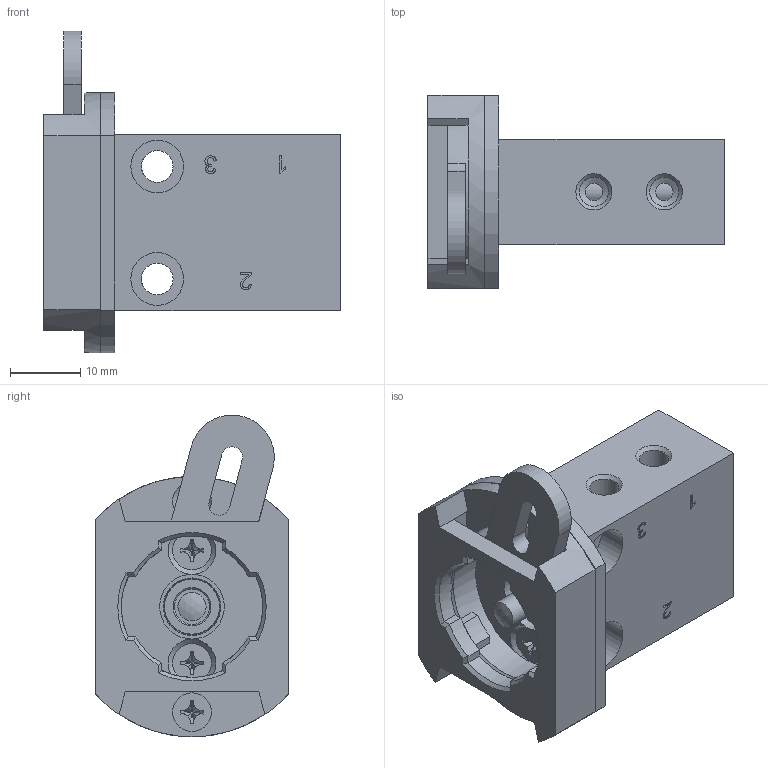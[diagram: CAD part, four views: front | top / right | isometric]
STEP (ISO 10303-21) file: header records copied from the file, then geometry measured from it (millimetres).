
FILE_DESCRIPTION(/* description */ ('Unknown','CAx-IF Rec.Pracs.---Representation and Presentation of Product Manufacturing Information (PMI)---4.0---2014-10-13','CAx-IF Rec.Pracs.---3D Tessellated Geometry---0.4---2014-09-14','2;1'),/* implementation_level */ '2;1');
FILE_NAME(/* name */ 'BA 311 201',/* time_stamp */ '2020-07-06T08:53:00+02:00',/* author */ ('Unknown'),/* organization */ ('Unknown'),/* preprocessor_version */ 'ST-DEVELOPER v16.7',/* originating_system */ 'DEX',/* authorisation */ $);
FILE_SCHEMA (('AP242_MANAGED_MODEL_BASED_3D_ENGINEERING_MIM_LF { 1 0 10303 442 20130219 1 4 }'));
Length unit declared in the file: millimetre
Products named in the file (2): BA 311 201
Assembly tree (1 placements, depth 2):
  BA 311 201
    BA 311 201
Bounding box: 42.1 x 27.5 x 45.73 mm (x, y, z)
Volume: 14576.3 mm3; surface area: 11844.6 mm2
Topology: 9 solids, 9 shells, 335 faces, 829 edges, 521 vertices
Faces by surface type: plane 170, cylinder 78, cone 43, bspline 40, torus 3, sphere 1
Full cylindrical faces by diameter (mm): 1 x1, 2.459 x4, 2.5 x3, 2.8 x1, 3 x3, 3.1 x2, 3.2 x2, 4 x2, 4.134 x6, 4.5 x2, 5 x1, 5.5 x5, 5.6 x2, 7.5 x4, 8 x1, 8.08 x1, 9.2 x1, 20.1 x1, 24 x1
Entity records: 11371 total; most frequent: CARTESIAN_POINT 2478, ORIENTED_EDGE 1444, DIRECTION 1426, EDGE_CURVE 722, AXIS2_PLACEMENT_3D 510, VERTEX_POINT 491, EDGE_LOOP 463, FACE_BOUND 463
